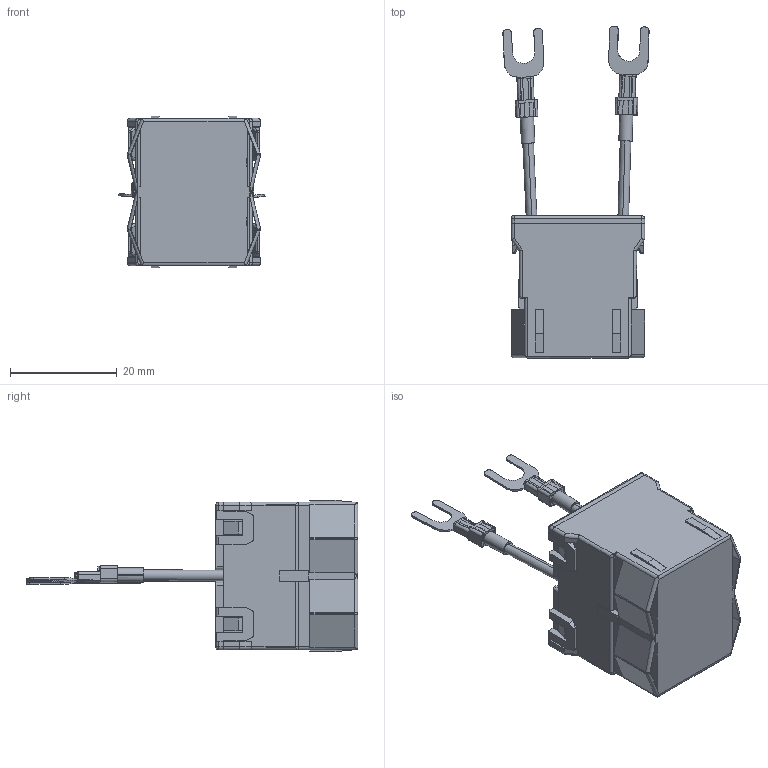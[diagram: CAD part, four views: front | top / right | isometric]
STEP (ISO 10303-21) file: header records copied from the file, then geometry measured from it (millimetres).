
FILE_DESCRIPTION (( 'STEP AP214' ), '1' );
FILE_NAME ('FR1.STEP', '2026-01-30T12:52:58', ( '' ), ( '' ), 'SwSTEP 2.0', 'SolidWorks 2024', '' );
FILE_SCHEMA (( 'AUTOMOTIVE_DESIGN' ));
Length unit declared in the file: millimetre
Products named in the file (49): MANIFOLD_SOLID_BREP_12295_3.stp; MANIFOLD_SOLID_BREP_12717_3.stp; RESUOGUAN_3.stp; MANIFOLD_SOLID_BREP_12805_3.stp; MANIFOLD_SOLID_BREP_12555_3.stp; MANIFOLD_SOLID_BREP_10982_3.stp; 8ABB_494_1066_ASM_3.stp; MANIFOLD_SOLID_BREP_11168_3.stp; LOGO_-10019_ASM_3.stp; CY_7_5X10X4-10005_ASM_3.stp; MANIFOLD_SOLID_BREP_7092_3.stp; CY_7_5X10X4-13083_3.stp; MANIFOLD_SOLID_BREP_9441_3.stp; R1_ASM_3.stp; MANIFOLD_SOLID_BREP_6906_3.stp; MANIFOLD_SOLID_BREP_7454_3.stp; MANIFOLD_SOLID_BREP_7868_3.stp; MANIFOLD_SOLID_BREP_9181_3.stp; RS_2W-V6_ASM_3.stp; 5ABB_574_1016_ASM_3.stp; MANIFOLD_SOLID_BREP_8575_3.stp; YINXIAN-LY-1_3.stp; MANIFOLD_SOLID_BREP_10294_3.stp; MANIFOLD_SOLID_BREP_7180_3.stp; LOGO_-6905_ASM_3.stp; MANIFOLD_SOLID_BREP_8663_3.stp; OPEN_CASCADE_STEP_TRANSLATOR_6__3.stp; 5ABB_494_1082_ASM_3.stp; FR1 (1).stp; MANIFOLD_SOLID_BREP_10206_3.stp; MANIFOLD_SOLID_BREP_9603_3.stp; __1_3.stp; C1_ASM_3.stp; MANIFOLD_SOLID_BREP_10382_3.stp; MANIFOLD_SOLID_BREP_11689_3.stp; MANIFOLD_SOLID_BREP_10568_3.stp; MANIFOLD_SOLID_BREP_11777_3.stp; MANIFOLD_SOLID_BREP_8995_3.stp; MANIFOLD_SOLID_BREP_8054_3.stp; RS_2W_3.stp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
Assembly tree (49 placements, depth 7):
  FR1
    FR1 (1).stp
      5ABB_494_1082_ASM_3.stp
        8ABB_494_1066_ASM_3.stp
          OPEN_CASCADE_STEP_TRANSLATOR_6__3.stp
        RV1_ASM_3.stp
          __1_3.stp
        R1_ASM_3.stp
          RS_2W-V6_ASM_3.stp
            LOGO_-6905_ASM_3.stp
              MANIFOLD_SOLID_BREP_6906_3.stp
              MANIFOLD_SOLID_BREP_7092_3.stp
              MANIFOLD_SOLID_BREP_7180_3.stp
              MANIFOLD_SOLID_BREP_7268_3.stp
              MANIFOLD_SOLID_BREP_7454_3.stp
              MANIFOLD_SOLID_BREP_7868_3.stp
              MANIFOLD_SOLID_BREP_8054_3.stp
              MANIFOLD_SOLID_BREP_8575_3.stp
              MANIFOLD_SOLID_BREP_8663_3.stp
              MANIFOLD_SOLID_BREP_8995_3.stp
              MANIFOLD_SOLID_BREP_9181_3.stp
              MANIFOLD_SOLID_BREP_9441_3.stp
              MANIFOLD_SOLID_BREP_9603_3.stp
              MANIFOLD_SOLID_BREP_9691_3.stp
            RS_2W_3.stp
        C1_ASM_3.stp
          CY_7_5X10X4-10005_ASM_3.stp
            LOGO_-10019_ASM_3.stp
              MANIFOLD_SOLID_BREP_10020_3.stp
              MANIFOLD_SOLID_BREP_10206_3.stp
              MANIFOLD_SOLID_BREP_10294_3.stp
              MANIFOLD_SOLID_BREP_10382_3.stp
              MANIFOLD_SOLID_BREP_10568_3.stp
              MANIFOLD_SOLID_BREP_10982_3.stp
              MANIFOLD_SOLID_BREP_11168_3.stp
              MANIFOLD_SOLID_BREP_11689_3.stp
              MANIFOLD_SOLID_BREP_11777_3.stp
              MANIFOLD_SOLID_BREP_12109_3.stp
              MANIFOLD_SOLID_BREP_12295_3.stp
              MANIFOLD_SOLID_BREP_12555_3.stp
              MANIFOLD_SOLID_BREP_12717_3.stp
              MANIFOLD_SOLID_BREP_12805_3.stp
            CY_7_5X10X4-13083_3.stp
        5ABB_574_1016_ASM_3.stp  x2
          YINXIAN-LY-1_3.stp
          CHATOU_3.stp
          RESUOGUAN_3.stp
      8ABB_315_1209_3.stp
      8ABB_315_1208_3.stp
Bounding box: 27.4 x 62.19 x 28.4 mm (x, y, z)
Volume: 6269.5 mm3; surface area: 11690 mm2
Topology: 38 solids, 42 shells, 1081 faces, 2799 edges, 1780 vertices
Faces by surface type: plane 505, cylinder 332, bspline 186, torus 36, sphere 18, cone 4
Entity records: 43237 total; most frequent: CARTESIAN_POINT 19505, ORIENTED_EDGE 4937, DIRECTION 4148, EDGE_CURVE 2473, VERTEX_POINT 1582, AXIS2_PLACEMENT_3D 1415, VECTOR 1318, LINE 1318
